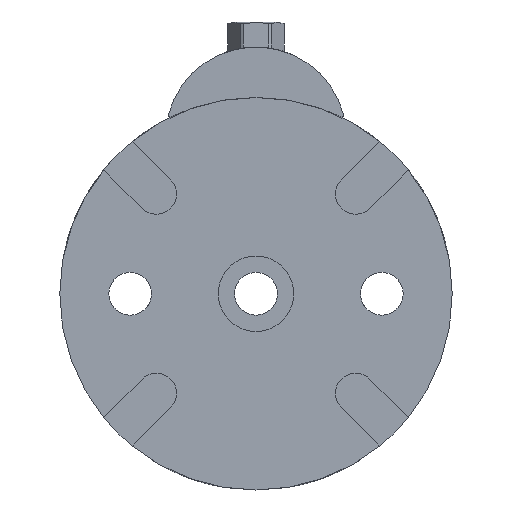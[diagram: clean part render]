
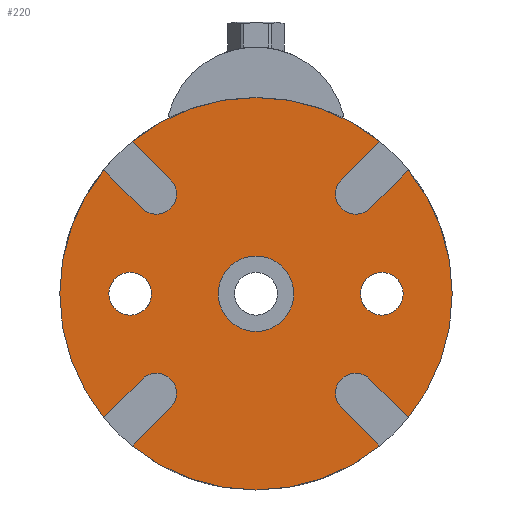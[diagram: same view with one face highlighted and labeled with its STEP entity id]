
A CAD part, front view. The second image highlights one B-rep face of the part: STEP entity #220.
In plain terms, the highlighted planar face has unit normal (0, -1, 0).
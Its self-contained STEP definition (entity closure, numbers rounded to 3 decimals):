
#220 = ADVANCED_FACE( '', ( #508, #509, #510, #511 ), #512, .T. );
#508 = FACE_OUTER_BOUND( '', #879, .T. );
#509 = FACE_BOUND( '', #880, .T. );
#510 = FACE_BOUND( '', #881, .T. );
#511 = FACE_BOUND( '', #882, .T. );
#512 = PLANE( '', #883 );
#879 = EDGE_LOOP( '', ( #1472, #1473, #1474, #1475, #1476, #1477, #1478, #1479, #1480, #1481, #1482, #1483, #1484, #1485, #1486, #1487 ) );
#880 = EDGE_LOOP( '', ( #1488 ) );
#881 = EDGE_LOOP( '', ( #1489 ) );
#882 = EDGE_LOOP( '', ( #1490 ) );
#883 = AXIS2_PLACEMENT_3D( '', #1491, #1492, #1493 );
#1472 = ORIENTED_EDGE( '', *, *, #2236, .F. );
#1473 = ORIENTED_EDGE( '', *, *, #2237, .T. );
#1474 = ORIENTED_EDGE( '', *, *, #2238, .F. );
#1475 = ORIENTED_EDGE( '', *, *, #2239, .T. );
#1476 = ORIENTED_EDGE( '', *, *, #2240, .F. );
#1477 = ORIENTED_EDGE( '', *, *, #2241, .T. );
#1478 = ORIENTED_EDGE( '', *, *, #2242, .F. );
#1479 = ORIENTED_EDGE( '', *, *, #2094, .T. );
#1480 = ORIENTED_EDGE( '', *, *, #2243, .F. );
#1481 = ORIENTED_EDGE( '', *, *, #2244, .T. );
#1482 = ORIENTED_EDGE( '', *, *, #2245, .F. );
#1483 = ORIENTED_EDGE( '', *, *, #2125, .T. );
#1484 = ORIENTED_EDGE( '', *, *, #2246, .F. );
#1485 = ORIENTED_EDGE( '', *, *, #2247, .T. );
#1486 = ORIENTED_EDGE( '', *, *, #2248, .F. );
#1487 = ORIENTED_EDGE( '', *, *, #2249, .T. );
#1488 = ORIENTED_EDGE( '', *, *, #2134, .T. );
#1489 = ORIENTED_EDGE( '', *, *, #2054, .F. );
#1490 = ORIENTED_EDGE( '', *, *, #2072, .F. );
#1491 = CARTESIAN_POINT( '', ( 7.5, 0., 0. ) );
#1492 = DIRECTION( '', ( 0., -1., 0. ) );
#1493 = DIRECTION( '', ( 0., 0., -1. ) );
#2054 = EDGE_CURVE( '', #2431, #2431, #2432, .T. );
#2072 = EDGE_CURVE( '', #2463, #2463, #2464, .T. );
#2094 = EDGE_CURVE( '', #2501, #2502, #2503, .T. );
#2125 = EDGE_CURVE( '', #2554, #2555, #2556, .T. );
#2134 = EDGE_CURVE( '', #2569, #2569, #2570, .F. );
#2236 = EDGE_CURVE( '', #2724, #2725, #2726, .T. );
#2237 = EDGE_CURVE( '', #2724, #2727, #2728, .T. );
#2238 = EDGE_CURVE( '', #2729, #2727, #2730, .T. );
#2239 = EDGE_CURVE( '', #2729, #2731, #2732, .T. );
#2240 = EDGE_CURVE( '', #2733, #2731, #2734, .T. );
#2241 = EDGE_CURVE( '', #2733, #2735, #2736, .T. );
#2242 = EDGE_CURVE( '', #2501, #2735, #2737, .T. );
#2243 = EDGE_CURVE( '', #2738, #2502, #2739, .T. );
#2244 = EDGE_CURVE( '', #2738, #2740, #2741, .T. );
#2245 = EDGE_CURVE( '', #2554, #2740, #2742, .T. );
#2246 = EDGE_CURVE( '', #2743, #2555, #2744, .T. );
#2247 = EDGE_CURVE( '', #2743, #2745, #2746, .T. );
#2248 = EDGE_CURVE( '', #2747, #2745, #2748, .T. );
#2249 = EDGE_CURVE( '', #2747, #2725, #2749, .T. );
#2431 = VERTEX_POINT( '', #2993 );
#2432 = CIRCLE( '', #2994, 7.5 );
#2463 = VERTEX_POINT( '', #3035 );
#2464 = CIRCLE( '', #3036, 4.25 );
#2501 = VERTEX_POINT( '', #3130 );
#2502 = VERTEX_POINT( '', #3131 );
#2503 = CIRCLE( '', #3132, 4. );
#2554 = VERTEX_POINT( '', #3208 );
#2555 = VERTEX_POINT( '', #3209 );
#2556 = CIRCLE( '', #3210, 4. );
#2569 = VERTEX_POINT( '', #3228 );
#2570 = CIRCLE( '', #3229, 4.25 );
#2724 = VERTEX_POINT( '', #3526 );
#2725 = VERTEX_POINT( '', #3527 );
#2726 = LINE( '', #3528, #3529 );
#2727 = VERTEX_POINT( '', #3530 );
#2728 = CIRCLE( '', #3531, 39. );
#2729 = VERTEX_POINT( '', #3532 );
#2730 = LINE( '', #3533, #3534 );
#2731 = VERTEX_POINT( '', #3535 );
#2732 = CIRCLE( '', #3536, 4. );
#2733 = VERTEX_POINT( '', #3537 );
#2734 = LINE( '', #3538, #3539 );
#2735 = VERTEX_POINT( '', #3540 );
#2736 = CIRCLE( '', #3541, 39. );
#2737 = LINE( '', #3542, #3543 );
#2738 = VERTEX_POINT( '', #3544 );
#2739 = LINE( '', #3545, #3546 );
#2740 = VERTEX_POINT( '', #3547 );
#2741 = CIRCLE( '', #3548, 39. );
#2742 = LINE( '', #3549, #3550 );
#2743 = VERTEX_POINT( '', #3551 );
#2744 = LINE( '', #3552, #3553 );
#2745 = VERTEX_POINT( '', #3554 );
#2746 = CIRCLE( '', #3555, 39. );
#2747 = VERTEX_POINT( '', #3556 );
#2748 = LINE( '', #3557, #3558 );
#2749 = CIRCLE( '', #3559, 4. );
#2993 = CARTESIAN_POINT( '', ( 0., 0., -7.5 ) );
#2994 = AXIS2_PLACEMENT_3D( '', #3992, #3993, #3994 );
#3035 = CARTESIAN_POINT( '', ( -25., 0., -4.25 ) );
#3036 = AXIS2_PLACEMENT_3D( '', #4017, #4018, #4019 );
#3130 = CARTESIAN_POINT( '', ( -16.971, 0., 22.627 ) );
#3131 = CARTESIAN_POINT( '', ( -22.627, 0., 16.971 ) );
#3132 = AXIS2_PLACEMENT_3D( '', #4047, #4048, #4049 );
#3208 = CARTESIAN_POINT( '', ( -22.627, 0., -16.971 ) );
#3209 = CARTESIAN_POINT( '', ( -16.971, 0., -22.627 ) );
#3210 = AXIS2_PLACEMENT_3D( '', #4084, #4085, #4086 );
#3228 = CARTESIAN_POINT( '', ( 25., 0., -4.25 ) );
#3229 = AXIS2_PLACEMENT_3D( '', #4095, #4096, #4097 );
#3526 = CARTESIAN_POINT( '', ( 30.26, 0., -24.603 ) );
#3527 = CARTESIAN_POINT( '', ( 22.627, 0., -16.971 ) );
#3528 = CARTESIAN_POINT( '', ( 6.578, 0., -0.922 ) );
#3529 = VECTOR( '', #4240, 1000. );
#3530 = CARTESIAN_POINT( '', ( 30.26, 0., 24.603 ) );
#3531 = AXIS2_PLACEMENT_3D( '', #4241, #4242, #4243 );
#3532 = CARTESIAN_POINT( '', ( 22.627, 0., 16.971 ) );
#3533 = CARTESIAN_POINT( '', ( 22.627, 0., 16.971 ) );
#3534 = VECTOR( '', #4244, 1000. );
#3535 = CARTESIAN_POINT( '', ( 16.971, 0., 22.627 ) );
#3536 = AXIS2_PLACEMENT_3D( '', #4245, #4246, #4247 );
#3537 = CARTESIAN_POINT( '', ( 24.603, 0., 30.26 ) );
#3538 = CARTESIAN_POINT( '', ( 0.922, 0., 6.578 ) );
#3539 = VECTOR( '', #4248, 1000. );
#3540 = CARTESIAN_POINT( '', ( -24.603, 0., 30.26 ) );
#3541 = AXIS2_PLACEMENT_3D( '', #4249, #4250, #4251 );
#3542 = CARTESIAN_POINT( '', ( -16.971, 0., 22.627 ) );
#3543 = VECTOR( '', #4252, 1000. );
#3544 = CARTESIAN_POINT( '', ( -30.26, 0., 24.603 ) );
#3545 = CARTESIAN_POINT( '', ( 0.922, 0., -6.578 ) );
#3546 = VECTOR( '', #4253, 1000. );
#3547 = CARTESIAN_POINT( '', ( -30.26, 0., -24.603 ) );
#3548 = AXIS2_PLACEMENT_3D( '', #4254, #4255, #4256 );
#3549 = CARTESIAN_POINT( '', ( -22.627, 0., -16.971 ) );
#3550 = VECTOR( '', #4257, 1000. );
#3551 = CARTESIAN_POINT( '', ( -24.603, 0., -30.26 ) );
#3552 = CARTESIAN_POINT( '', ( 6.578, 0., 0.922 ) );
#3553 = VECTOR( '', #4258, 1000. );
#3554 = CARTESIAN_POINT( '', ( 24.603, 0., -30.26 ) );
#3555 = AXIS2_PLACEMENT_3D( '', #4259, #4260, #4261 );
#3556 = CARTESIAN_POINT( '', ( 16.971, 0., -22.627 ) );
#3557 = CARTESIAN_POINT( '', ( 16.971, 0., -22.627 ) );
#3558 = VECTOR( '', #4262, 1000. );
#3559 = AXIS2_PLACEMENT_3D( '', #4263, #4264, #4265 );
#3992 = CARTESIAN_POINT( '', ( 0., 0., 0. ) );
#3993 = DIRECTION( '', ( 0., -1., 0. ) );
#3994 = DIRECTION( '', ( 0., 0., -1. ) );
#4017 = CARTESIAN_POINT( '', ( -25., 0., 0. ) );
#4018 = DIRECTION( '', ( 0., -1., 0. ) );
#4019 = DIRECTION( '', ( 0., 0., -1. ) );
#4047 = CARTESIAN_POINT( '', ( -19.799, 0., 19.799 ) );
#4048 = DIRECTION( '', ( 0., 1., 0. ) );
#4049 = DIRECTION( '', ( 1., 0., 0. ) );
#4084 = CARTESIAN_POINT( '', ( -19.799, 0., -19.799 ) );
#4085 = DIRECTION( '', ( 0., 1., 0. ) );
#4086 = DIRECTION( '', ( 1., 0., 0. ) );
#4095 = CARTESIAN_POINT( '', ( 25., 0., 0. ) );
#4096 = DIRECTION( '', ( 0., -1., 0. ) );
#4097 = DIRECTION( '', ( 0., 0., -1. ) );
#4240 = DIRECTION( '', ( -0.707, 0., 0.707 ) );
#4241 = CARTESIAN_POINT( '', ( 0., 0., 0. ) );
#4242 = DIRECTION( '', ( 0., -1., 0. ) );
#4243 = DIRECTION( '', ( 0., 0., -1. ) );
#4244 = DIRECTION( '', ( 0.707, 0., 0.707 ) );
#4245 = CARTESIAN_POINT( '', ( 19.799, 0., 19.799 ) );
#4246 = DIRECTION( '', ( 0., 1., 0. ) );
#4247 = DIRECTION( '', ( 1., 0., 0. ) );
#4248 = DIRECTION( '', ( -0.707, 0., -0.707 ) );
#4249 = CARTESIAN_POINT( '', ( 0., 0., 0. ) );
#4250 = DIRECTION( '', ( 0., -1., 0. ) );
#4251 = DIRECTION( '', ( 0., 0., -1. ) );
#4252 = DIRECTION( '', ( -0.707, 0., 0.707 ) );
#4253 = DIRECTION( '', ( 0.707, 0., -0.707 ) );
#4254 = CARTESIAN_POINT( '', ( 0., 0., 0. ) );
#4255 = DIRECTION( '', ( 0., -1., 0. ) );
#4256 = DIRECTION( '', ( 0., 0., -1. ) );
#4257 = DIRECTION( '', ( -0.707, 0., -0.707 ) );
#4258 = DIRECTION( '', ( 0.707, 0., 0.707 ) );
#4259 = CARTESIAN_POINT( '', ( 0., 0., 0. ) );
#4260 = DIRECTION( '', ( 0., -1., 0. ) );
#4261 = DIRECTION( '', ( 0., 0., -1. ) );
#4262 = DIRECTION( '', ( 0.707, 0., -0.707 ) );
#4263 = CARTESIAN_POINT( '', ( 19.799, 0., -19.799 ) );
#4264 = DIRECTION( '', ( 0., 1., 0. ) );
#4265 = DIRECTION( '', ( 1., 0., 0. ) );
